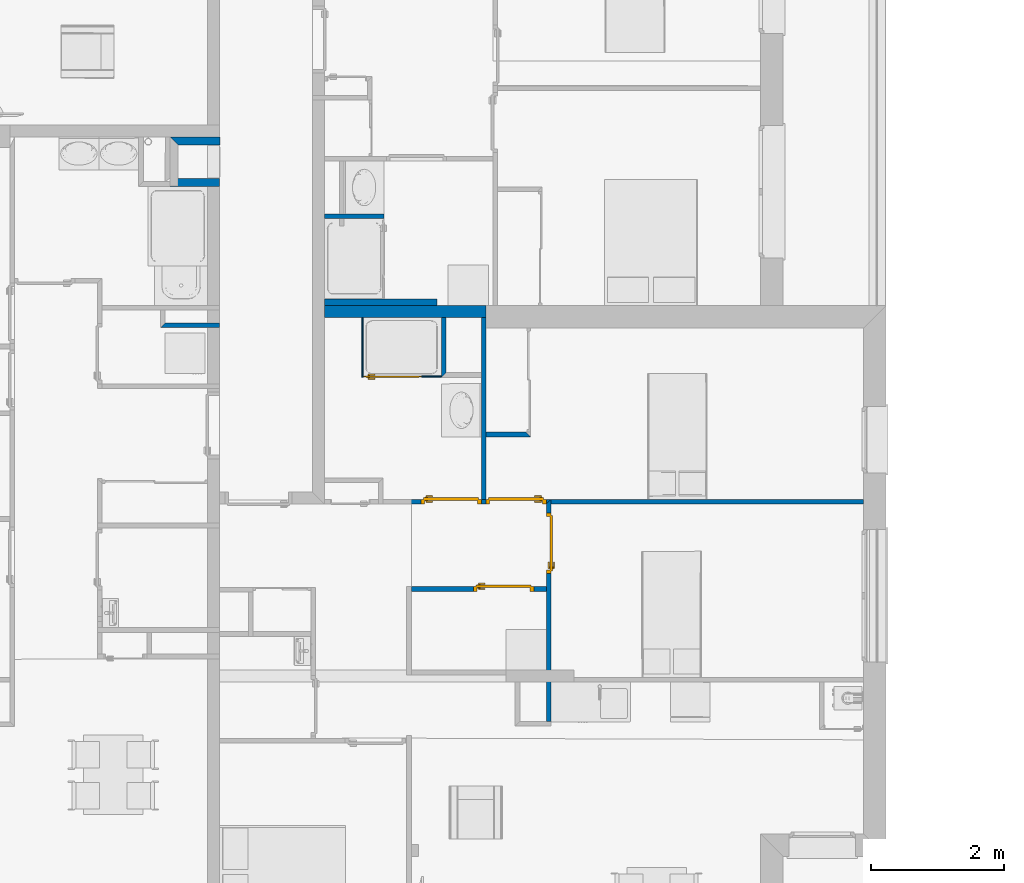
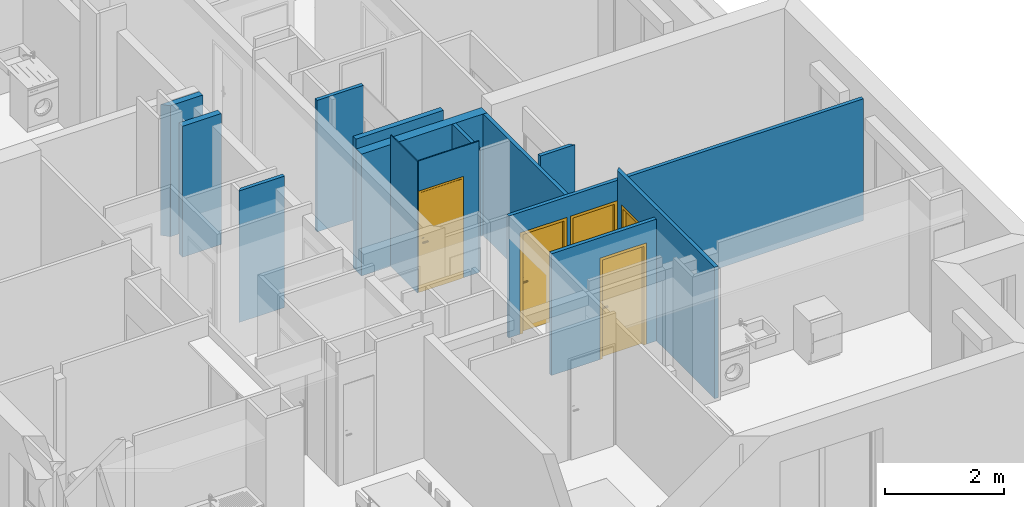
# One storey, part 12 of 164: 15 walls, 5 doors, 5 openings.
"""IFC2X3 building model written with IfcOpenShell, lengths in millimetres."""

from ifc_helpers import new_model, entity, si_unit, converted_unit, derived_unit, money_unit, direction, frame, origin_with_axes, origin_2d_with_axis, place, context, subcontext, project, spatial, polyline, rectangle, outline, extrude, faceted_brep, source, transform, mapped, material, layer, layer_set, layer_usage, type_object, element, fill, save


model = new_model("IFC2X3")

# Units and contexts
model_context = context("Model", 3, precision=0.01, world=origin_with_axes(), true_north=direction((0.0, 1.0)))
body_context = subcontext(model_context, "Body", "Model", "MODEL_VIEW")
ifc_project = project(units=[si_unit("LENGTHUNIT", "METRE", prefix="MILLI"), si_unit("AREAUNIT", "SQUARE_METRE"), si_unit("VOLUMEUNIT", "CUBIC_METRE"), converted_unit("PLANEANGLEUNIT", "DEGREE", entity("IfcPlaneAngleMeasure", 0.0174532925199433), si_unit("PLANEANGLEUNIT", "RADIAN"), dimensions=[0, 0, 0, 0, 0, 0, 0]), money_unit("USD"), converted_unit("TIMEUNIT", "Year", entity("IfcTimeMeasure", 31557600.0), si_unit("TIMEUNIT", "SECOND"), dimensions=[0, 0, 1, 0, 0, 0, 0]), si_unit("MASSUNIT", "GRAM", prefix="KILO"), si_unit("THERMODYNAMICTEMPERATUREUNIT", "DEGREE_CELSIUS"), si_unit("LUMINOUSINTENSITYUNIT", "LUMEN"), si_unit("ENERGYUNIT", "JOULE", prefix="MEGA"), derived_unit("THERMALCONDUCTANCEUNIT", [(si_unit("POWERUNIT", "WATT"), 1), (si_unit("LENGTHUNIT", "METRE"), -1), (si_unit("THERMODYNAMICTEMPERATUREUNIT", "KELVIN"), -1)]), derived_unit("SPECIFICHEATCAPACITYUNIT", [(si_unit("ENERGYUNIT", "JOULE"), 1), (si_unit("MASSUNIT", "GRAM", prefix="KILO"), -1), (si_unit("THERMODYNAMICTEMPERATUREUNIT", "KELVIN"), -1)]), derived_unit("MASSDENSITYUNIT", [(si_unit("MASSUNIT", "GRAM", prefix="KILO"), 1), (si_unit("VOLUMEUNIT", "CUBIC_METRE"), -1)])], contexts=[model_context])

# Site, building, storey
site_placement = place(None, origin_with_axes())
site = spatial("IfcSite", under=ifc_project, at=site_placement, Name="Site", CompositionType="ELEMENT")
building_placement = place(site_placement, origin_with_axes())
building = spatial("IfcBuilding", under=site, at=building_placement, Name="Bâtiment", CompositionType="ELEMENT")
storey_placement = place(building_placement, frame((0.0, 0.0, 5750.0), z_axis=(0.0, 0.0, 1.0), x_axis=(1.0, 0.0, 0.0)))
storey = spatial("IfcBuildingStorey", under=building, at=storey_placement, Name="Etage1", CompositionType="ELEMENT", Elevation=5750.0)

# Walls
ifc_material_1 = material(Name="Parpaing 314940890")
ifc_layer_1 = layer(ifc_material_1, 180.0, ventilated="UNKNOWN")
ifc_layer_set_1 = layer_set([ifc_layer_1], Name="Beton  18 0018356637")
ifc_layer_usage_1 = layer_usage(ifc_layer_set_1, "AXIS2", "NEGATIVE", 0.0)
wall_type_1 = type_object("IfcWallType", Name="Beton  18 0018356637 180", PredefinedType="NOTDEFINED")
wall_1_placement = place(storey_placement, frame((2225712.31835196, -646738.4413036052, 0.0), z_axis=(0.0, 0.0, 1.0), x_axis=(1.0, 0.0, 0.0)))
element("IfcWallStandardCase", 1, at=wall_1_placement, inside=storey, type_object=wall_type_1, material=ifc_layer_usage_1, Name="Mur-142", context=body_context, shape_type="SweptSolid", body=[
    extrude(outline(polyline([(180.0000047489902, -180.0000000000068), (2614.562191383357, -180.0000000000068), (2614.562191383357, 0.0), (180.0000047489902, 0.0), (180.0000047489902, -180.0000000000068)])), origin_with_axes(), (0.0, 0.0, 1.0), 2500.0),
])
ifc_material_2 = material(Name="Hachure solide 268963992")
ifc_layer_2 = layer(ifc_material_2, 70.0, ventilated="UNKNOWN")
ifc_layer_set_2 = layer_set([ifc_layer_2], Name="Cloison 70 0826278243")
ifc_layer_usage_2 = layer_usage(ifc_layer_set_2, "AXIS2", "NEGATIVE", 70.0)
wall_type_2 = type_object("IfcWallType", Name="Cloison 70 0826278243 70", PredefinedType="NOTDEFINED")
wall_2_placement = place(storey_placement, frame((2223422.792645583, -647071.8522366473, 0.0), z_axis=(0.0, 0.0, 1.0), x_axis=(0.9999999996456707, -2.662064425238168e-05, 0.0)))
element("IfcWallStandardCase", 2, at=wall_2_placement, inside=storey, type_object=wall_type_2, material=ifc_layer_usage_2, Name="Mur-149", context=body_context, shape_type="SweptSolid", body=[
    extrude(outline(polyline([(-1.13686837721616e-10, 0.0), (889.5840907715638, 0.0), (889.5840907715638, 70.00000000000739), (70.00055960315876, 69.99999999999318), (-1.13686837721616e-10, 0.0)])), origin_with_axes(), (0.0, 0.0, 1.0), 2700.0),
])
ifc_layer_usage_3 = layer_usage(ifc_layer_set_2, "AXIS2", "POSITIVE", -70.0)
wall_3_placement = place(storey_placement, frame((2226790.814608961, -645429.1779274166, 0.0), z_axis=(0.0, 0.0, 1.0), x_axis=(-1.0, 0.0, 0.0)))
element("IfcWallStandardCase", 3, at=wall_3_placement, inside=storey, type_object=wall_type_2, material=ifc_layer_usage_3, Name="Mur-149", context=body_context, shape_type="SweptSolid", body=[
    extrude(outline(polyline([(0.0, -69.99999999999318), (898.496252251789, -69.99999999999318), (898.496252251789, 0.0), (0.0, 0.0), (0.0, -69.99999999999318)])), origin_with_axes(), (0.0, 0.0, 1.0), 2700.0),
])
ifc_layer_usage_4 = layer_usage(ifc_layer_set_2, "AXIS2", "NEGATIVE", 70.0)
wall_4_placement = place(storey_placement, frame((2229236.880543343, -649729.592635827, 0.0), z_axis=(0.0, 0.0, 1.0), x_axis=(1.0, 0.0, 0.0)))
element("IfcWallStandardCase", 4, at=wall_4_placement, inside=storey, type_object=wall_type_2, material=ifc_layer_usage_4, Name="Mur-149", context=body_context, shape_type="SweptSolid", body=[
    extrude(outline(polyline([(70.00000018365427, 0.0), (4779.790753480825, 0.0), (4779.790753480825, 69.99999999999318), (69.99492977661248, 69.99999999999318), (70.00000018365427, 0.0)])), origin_with_axes(), (0.0, 0.0, 1.0), 2500.0),
])
ifc_layer_usage_5 = layer_usage(ifc_layer_set_2, "AXIS2", "POSITIVE", -70.0)
wall_5_placement = place(storey_placement, frame((2228326.880543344, -646738.4413036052, 0.0), z_axis=(0.0, 0.0, 1.0), x_axis=(0.0, -1.0, 0.0)))
element("IfcWallStandardCase", 5, at=wall_5_placement, inside=storey, type_object=wall_type_2, material=ifc_layer_usage_5, Name="Mur-149", context=body_context, shape_type="SweptSolid", body=[
    extrude(outline(polyline([(180.0000000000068, -70.00000000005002), (2921.151332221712, -70.00000000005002), (2921.151332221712, 0.0), (180.0000000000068, 0.0), (180.0000000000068, -70.00000000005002)])), origin_with_axes(), (0.0, 0.0, 1.0), 2500.0),
])
ifc_layer_usage_6 = layer_usage(ifc_layer_set_2, "AXIS2", "NEGATIVE", 70.0)
wall_6_placement = place(storey_placement, frame((2227655.056988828, -646738.4413036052, 0.0), z_axis=(0.0, 0.0, 1.0), x_axis=(0.0, -1.0, 0.0)))
element("IfcWallStandardCase", 6, at=wall_6_placement, inside=storey, type_object=wall_type_2, material=ifc_layer_usage_6, Name="Mur-149", context=body_context, shape_type="SweptSolid", body=[
    extrude(outline(polyline([(180.0000000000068, 0.0), (1080.872744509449, 0.0), (1010.872744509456, 70.00000000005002), (180.0000000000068, 70.00000000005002), (180.0000000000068, 0.0)])), origin_with_axes(), (0.0, 0.0, 1.0), 2500.000000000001),
])
ifc_layer_usage_7 = layer_usage(ifc_layer_set_2, "AXIS2", "NEGATIVE", 70.0)
wall_7_placement = place(storey_placement, frame((2228326.880543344, -648717.0412115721, 0.0), z_axis=(0.0, 0.0, 1.0), x_axis=(1.0, 0.0, 0.0)))
element("IfcWallStandardCase", 7, at=wall_7_placement, inside=storey, type_object=wall_type_2, material=ifc_layer_usage_7, Name="Mur-149", context=body_context, shape_type="SweptSolid", body=[
    extrude(outline(polyline([(0.0, 0.0), (669.9999999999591, 0.0), (599.999999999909, 69.99999999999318), (0.0, 69.99999999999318), (0.0, 0.0)])), origin_with_axes(), (0.0, 0.0, 1.0), 2700.0),
])

# Wall, opening, door
ifc_layer_usage_8 = layer_usage(ifc_layer_set_2, "AXIS2", "NEGATIVE", 70.0)
wall_8_placement = place(storey_placement, frame((2229236.880543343, -649729.592635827, 0.0), z_axis=(0.0, 0.0, 1.0), x_axis=(7.243438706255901e-05, -0.9999999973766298, 0.0)))
wall_8 = element("IfcWallStandardCase", 8, at=wall_8_placement, inside=storey, type_object=wall_type_2, material=ifc_layer_usage_8, Name="Mur-149", context=body_context, shape_type="SweptSolid", body=[
    extrude(outline(polyline([(0.0, 0.0), (3277.337972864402, 0.0), (3277.347924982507, 69.99999999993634), (-69.994929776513, 69.99999999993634), (0.0, 0.0)])), origin_with_axes(), (0.0, 0.0, 1.0), 2700.0),
])
opening_1_placement = place(wall_8_placement, frame((591.727868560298, -1.13686837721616e-10, 0.0), z_axis=(0.0, 0.0, 1.0), x_axis=(1.0, 0.0, 0.0)))
opening_1 = element("IfcOpeningElement", 9, at=opening_1_placement, cuts=wall_8, Name="Por-282", context=body_context, shape_type="SweptSolid", body=[
    extrude(rectangle(XDim=910.0, YDim=2080.0, at=origin_2d_with_axis()), frame((0.0, -69.99999999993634, 1040.0), z_axis=(0.0, -1.0, 0.0), x_axis=(-1.0, 0.0, 0.0)), (0.0, 0.0, -1.0), 140.0),
])
door_style = type_object("IfcDoorStyle", Name="Porte_1v", ConstructionType="NOTDEFINED", OperationType="NOTDEFINED", ParameterTakesPrecedence=False, Sizeable=False)
shared_shape_1 = source(origin_with_axes(), body_context, "Body", "Brep", [
    faceted_brep([(-454.9999999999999, 0.0, 0.0), (-454.9999999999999, 0.0, 2080.0), (454.9999999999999, 0.0, 2080.0), (454.9999999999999, 0.0, 0.0), (414.9999999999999, 0.0, 0.0), (414.9999999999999, 0.0, 2040.0), (-414.9999999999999, 0.0, 2040.0), (-414.9999999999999, 0.0, 0.0), (-454.9999999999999, -69.99999999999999, 0.0), (-454.9999999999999, -69.99999999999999, 2080.0), (454.9999999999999, -69.99999999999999, 2080.0), (454.9999999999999, -69.99999999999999, 0.0), (399.9999999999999, -69.99999999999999, 0.0), (399.9999999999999, -15.0, 0.0), (414.9999999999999, -15.0, 0.0), (414.9999999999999, -15.0, 2040.0), (-414.9999999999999, -14.99999999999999, 2040.0), (-414.9999999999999, -14.99999999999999, 0.0), (-399.9999999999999, -14.99999999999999, 0.0), (-399.9999999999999, -69.99999999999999, 0.0), (-399.9999999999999, -69.99999999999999, 2025.0), (399.9999999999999, -69.99999999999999, 2025.0), (399.9999999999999, -15.0, 2025.0), (-399.9999999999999, -14.99999999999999, 2025.0)], [[[0, 1, 2, 3, 4, 5, 6, 7]], [[8, 9, 1, 0]], [[9, 10, 2, 1]], [[10, 11, 3, 2]], [[3, 11, 12, 13, 14, 4]], [[5, 4, 14, 15]], [[6, 5, 15, 16]], [[7, 6, 16, 17]], [[0, 7, 17, 18, 19, 8]], [[19, 20, 21, 12, 11, 10, 9, 8]], [[22, 13, 12, 21]], [[17, 16, 15, 14, 13, 22, 23, 18]], [[18, 23, 20, 19]], [[23, 22, 21, 20]]]),
    faceted_brep([(350.0, -15.0, 900.0), (350.0, -15.0, 1100.0), (389.9999999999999, -15.0, 1100.0), (389.9999999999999, -15.0, 900.0), (350.0, -25.0, 900.0), (350.0, -25.0, 1100.0), (389.9999999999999, -25.0, 1100.0), (389.9999999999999, -25.0, 900.0)], [[[0, 1, 2, 3]], [[0, 4, 5, 1]], [[1, 5, 6, 2]], [[2, 6, 7, 3]], [[3, 7, 4, 0]], [[7, 6, 5, 4]]]),
    faceted_brep([(279.9999999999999, -25.0, 1000.0), (279.9999999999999, -25.0, 1020.0), (379.9999999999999, -25.0, 1020.0), (379.9999999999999, -25.0, 1000.0), (279.9999999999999, -45.0, 1000.0), (279.9999999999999, -45.0, 1020.0), (379.9999999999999, -45.0, 1020.0), (379.9999999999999, -45.0, 1000.0)], [[[0, 1, 2, 3]], [[0, 4, 5, 1]], [[1, 5, 6, 2]], [[2, 6, 7, 3]], [[3, 7, 4, 0]], [[7, 6, 5, 4]]]),
    faceted_brep([(350.0, 34.99999999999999, 900.0), (350.0, 34.99999999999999, 1100.0), (389.9999999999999, 34.99999999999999, 1100.0), (389.9999999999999, 34.99999999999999, 900.0), (350.0, 24.99999999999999, 900.0), (350.0, 24.99999999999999, 1100.0), (389.9999999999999, 24.99999999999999, 1100.0), (389.9999999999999, 24.99999999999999, 900.0)], [[[0, 1, 2, 3]], [[0, 4, 5, 1]], [[1, 5, 6, 2]], [[2, 6, 7, 3]], [[3, 7, 4, 0]], [[7, 6, 5, 4]]]),
    faceted_brep([(279.9999999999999, 54.99999999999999, 1000.0), (279.9999999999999, 54.99999999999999, 1020.0), (379.9999999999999, 54.99999999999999, 1020.0), (379.9999999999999, 54.99999999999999, 1000.0), (279.9999999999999, 34.99999999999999, 1000.0), (279.9999999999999, 34.99999999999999, 1020.0), (379.9999999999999, 34.99999999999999, 1020.0), (379.9999999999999, 34.99999999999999, 1000.0)], [[[0, 1, 2, 3]], [[0, 4, 5, 1]], [[1, 5, 6, 2]], [[2, 6, 7, 3]], [[3, 7, 4, 0]], [[7, 6, 5, 4]]]),
    faceted_brep([(414.9999999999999, 24.99999999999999, 0.0), (414.9999999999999, -15.0, 0.0), (-414.9999999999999, -14.99999999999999, 0.0), (-414.9999999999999, 25.0, 0.0), (414.9999999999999, 24.99999999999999, 2040.0), (414.9999999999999, -15.0, 2040.0), (-414.9999999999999, -14.99999999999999, 2040.0), (-414.9999999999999, 25.0, 2040.0)], [[[0, 1, 2, 3]], [[4, 5, 1, 0]], [[1, 5, 6, 2]], [[3, 2, 6, 7]], [[0, 3, 7, 4]], [[7, 6, 5, 4]]]),
])
door_1_placement = place(opening_1_placement, frame((-415.0000000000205, 0.0, 0.0), z_axis=(0.0, 0.0, 1.0), x_axis=(1.0, 0.0, 0.0)))
door_1 = element("IfcDoor", 10, at=door_1_placement, inside=storey, type_object=door_style, Name="Por-282", OverallHeight=2040.0, OverallWidth=830.0, context=body_context, shape_type="MappedRepresentation", body=[
    mapped(shared_shape_1, transform((415.0000000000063, 70.00000000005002, 0.0))),
])
fill(opening_1, door_1)

ifc_layer_usage_9 = layer_usage(ifc_layer_set_2, "AXIS2", "NEGATIVE", 70.0)
wall_9_placement = place(storey_placement, frame((2227132.330502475, -651044.9462380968, 0.0), z_axis=(0.0, 0.0, 1.0), x_axis=(1.0, 0.0, 0.0)))
wall_9 = element("IfcWallStandardCase", 11, at=wall_9_placement, inside=storey, type_object=wall_type_2, material=ifc_layer_usage_9, Name="Mur-149", context=body_context, shape_type="SweptSolid", body=[
    extrude(outline(polyline([(70.00000000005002, 0.0), (2104.550040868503, 0.0), (2104.550040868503, 69.99999999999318), (70.00000000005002, 69.99999999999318), (70.00000000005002, 0.0)])), origin_with_axes(), (0.0, 0.0, 1.0), 2500.0),
])
opening_2_placement = place(wall_9_placement, frame((1461.036546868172, 0.0, 0.0), z_axis=(0.0, 0.0, 1.0), x_axis=(1.0, 0.0, 0.0)))
opening_2 = element("IfcOpeningElement", 12, at=opening_2_placement, cuts=wall_9, Name="Por-283", context=body_context, shape_type="SweptSolid", body=[
    extrude(rectangle(XDim=910.0, YDim=2080.0, at=origin_2d_with_axis()), frame((0.0, -69.99999999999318, 1040.0), z_axis=(0.0, 1.0, 0.0), x_axis=(1.0, 0.0, 0.0)), (0.0, 0.0, 1.0), 140.0),
])
shared_shape_2 = source(origin_with_axes(), body_context, "Body", "Brep", [
    faceted_brep([(455.0, 0.0, 0.0), (415.0000000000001, 0.0, 0.0), (415.0000000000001, 0.0, 2040.0), (-415.0000000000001, 0.0, 2040.0), (-415.0000000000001, 0.0, 0.0), (-455.0, 0.0, 0.0), (-455.0, 0.0, 2080.0), (455.0, 0.0, 2080.0), (455.0, -70.0, 0.0), (400.0, -70.0, 0.0), (400.0, -15.0, 0.0), (415.0000000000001, -15.0, 0.0), (415.0000000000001, -15.0, 2040.0), (-415.0000000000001, -15.0, 2040.0), (-415.0000000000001, -15.0, 0.0), (-400.0, -15.0, 0.0), (-400.0, -70.0, 0.0), (-455.0, -70.0, 0.0), (-455.0, -70.0, 2080.0), (455.0, -70.0, 2080.0), (-400.0, -70.0, 2025.0), (400.0, -70.0, 2025.0), (400.0, -15.0, 2025.0), (-400.0, -15.0, 2025.0)], [[[0, 1, 2, 3, 4, 5, 6, 7]], [[0, 8, 9, 10, 11, 1]], [[1, 11, 12, 2]], [[2, 12, 13, 3]], [[3, 13, 14, 4]], [[5, 4, 14, 15, 16, 17]], [[18, 6, 5, 17]], [[19, 7, 6, 18]], [[8, 0, 7, 19]], [[9, 8, 19, 18, 17, 16, 20, 21]], [[10, 9, 21, 22]], [[11, 10, 22, 23, 15, 14, 13, 12]], [[23, 20, 16, 15]], [[22, 21, 20, 23]]]),
    faceted_brep([(-350.0000000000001, -15.0, 900.0), (-390.0, -15.0, 900.0), (-390.0, -15.0, 1100.0), (-350.0000000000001, -15.0, 1100.0), (-350.0000000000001, -25.0, 900.0), (-390.0, -25.0, 900.0), (-390.0, -25.0, 1100.0), (-350.0000000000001, -25.0, 1100.0)], [[[0, 1, 2, 3]], [[1, 0, 4, 5]], [[2, 1, 5, 6]], [[3, 2, 6, 7]], [[0, 3, 7, 4]], [[5, 4, 7, 6]]]),
    faceted_brep([(-280.0, -25.0, 1000.0), (-380.0, -25.0, 1000.0), (-380.0, -25.0, 1020.0), (-280.0, -25.0, 1020.0), (-280.0, -45.0, 1000.0), (-380.0, -45.0, 1000.0), (-380.0, -45.0, 1020.0), (-280.0, -45.0, 1020.0)], [[[0, 1, 2, 3]], [[1, 0, 4, 5]], [[2, 1, 5, 6]], [[3, 2, 6, 7]], [[0, 3, 7, 4]], [[5, 4, 7, 6]]]),
    faceted_brep([(-350.0000000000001, 35.0, 900.0), (-390.0, 35.0, 900.0), (-390.0, 35.0, 1100.0), (-350.0000000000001, 35.0, 1100.0), (-350.0000000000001, 25.0, 900.0), (-390.0, 25.0, 900.0), (-390.0, 25.0, 1100.0), (-350.0000000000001, 25.0, 1100.0)], [[[0, 1, 2, 3]], [[1, 0, 4, 5]], [[2, 1, 5, 6]], [[3, 2, 6, 7]], [[0, 3, 7, 4]], [[5, 4, 7, 6]]]),
    faceted_brep([(-280.0, 55.00000000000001, 1000.0), (-380.0, 55.00000000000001, 1000.0), (-380.0, 55.00000000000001, 1020.0), (-280.0, 55.00000000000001, 1020.0), (-280.0, 35.0, 1000.0), (-380.0, 35.0, 1000.0), (-380.0, 35.0, 1020.0), (-280.0, 35.0, 1020.0)], [[[0, 1, 2, 3]], [[1, 0, 4, 5]], [[2, 1, 5, 6]], [[3, 2, 6, 7]], [[0, 3, 7, 4]], [[5, 4, 7, 6]]]),
    faceted_brep([(-415.0000000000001, 25.0, 0.0), (415.0000000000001, 25.0, 0.0), (415.0000000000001, -15.0, 0.0), (-415.0000000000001, -15.0, 0.0), (-415.0000000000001, 25.0, 2040.0), (415.0000000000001, 25.0, 2040.0), (415.0000000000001, -15.0, 2040.0), (-415.0000000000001, -15.0, 2040.0)], [[[0, 1, 2, 3]], [[0, 4, 5, 1]], [[1, 5, 6, 2]], [[3, 2, 6, 7]], [[4, 0, 3, 7]], [[5, 4, 7, 6]]]),
])
door_2_placement = place(opening_2_placement, frame((-415.000000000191, 0.0, 0.0), z_axis=(0.0, 0.0, 1.0), x_axis=(1.0, 0.0, 0.0)))
door_2 = element("IfcDoor", 13, at=door_2_placement, inside=storey, type_object=door_style, Name="Por-283", OverallHeight=2040.0, OverallWidth=830.0, context=body_context, shape_type="MappedRepresentation", body=[
    mapped(shared_shape_2, transform((414.9999999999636, 69.99999999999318, 0.0))),
])
fill(opening_2, door_2)

# Wall, openings, doors
ifc_layer_usage_10 = layer_usage(ifc_layer_set_2, "AXIS2", "NEGATIVE", 70.0)
wall_10_placement = place(storey_placement, frame((2227132.330502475, -649729.592635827, 0.0), z_axis=(0.0, 0.0, 1.0), x_axis=(1.0, 0.0, 0.0)))
wall_10 = element("IfcWallStandardCase", 14, at=wall_10_placement, inside=storey, type_object=wall_type_2, material=ifc_layer_usage_10, Name="Mur-149", context=body_context, shape_type="SweptSolid", body=[
    extrude(outline(polyline([(0.0, 0.0), (2104.550040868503, 0.0), (2174.544970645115, 69.99999999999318), (0.0, 69.99999999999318), (0.0, 0.0)])), origin_with_axes(), (0.0, 0.0, 1.0), 2500.0),
])
opening_3_placement = place(wall_10_placement, frame((1649.550040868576, 0.0, 0.0), z_axis=(0.0, 0.0, 1.0), x_axis=(1.0, 0.0, 0.0)))
opening_3 = element("IfcOpeningElement", 15, at=opening_3_placement, cuts=wall_10, Name="Por-281", context=body_context, shape_type="SweptSolid", body=[
    extrude(rectangle(XDim=910.0, YDim=2080.0, at=origin_2d_with_axis()), frame((0.0, -69.99999999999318, 1040.0), z_axis=(0.0, -1.0, 0.0), x_axis=(-1.0, 0.0, 0.0)), (0.0, 0.0, -1.0), 140.0),
])
opening_4_placement = place(wall_10_placement, frame((669.5500408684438, 0.0, 0.0), z_axis=(0.0, 0.0, 1.0), x_axis=(1.0, 0.0, 0.0)))
opening_4 = element("IfcOpeningElement", 16, at=opening_4_placement, cuts=wall_10, Name="Por-282", context=body_context, shape_type="SweptSolid", body=[
    extrude(rectangle(XDim=910.0, YDim=2080.0, at=origin_2d_with_axis()), frame((0.0, -69.99999999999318, 1040.0), z_axis=(0.0, 1.0, 0.0), x_axis=(1.0, 0.0, 0.0)), (0.0, 0.0, 1.0), 140.0),
])
door_3_placement = place(opening_4_placement, frame((-414.9999999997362, 0.0, 0.0), z_axis=(0.0, 0.0, 1.0), x_axis=(1.0, 0.0, 0.0)))
door_3 = element("IfcDoor", 17, at=door_3_placement, inside=storey, type_object=door_style, Name="Por-282", OverallHeight=2040.0, OverallWidth=830.0, context=body_context, shape_type="MappedRepresentation", body=[
    mapped(shared_shape_2, transform((414.9999999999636, 69.99999999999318, 0.0))),
])
fill(opening_4, door_3)
door_4_placement = place(opening_3_placement, frame((-415.0000000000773, 0.0, 0.0), z_axis=(0.0, 0.0, 1.0), x_axis=(1.0, 0.0, 0.0)))
door_4 = element("IfcDoor", 18, at=door_4_placement, inside=storey, type_object=door_style, Name="Por-281", OverallHeight=2040.0, OverallWidth=830.0, context=body_context, shape_type="MappedRepresentation", body=[
    mapped(shared_shape_1, transform((414.9999999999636, 69.99999999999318, 0.0))),
])
fill(opening_3, door_4)

# Walls
ifc_material_3 = material(Name="AS_EMPTY 272048125")
ifc_layer_3 = layer(ifc_material_3, 20.0, ventilated="UNKNOWN")
ifc_material_4 = material(Name="Isolant styromousse 275581351")
ifc_layer_4 = layer(ifc_material_4, 80.0, ventilated="UNKNOWN")
ifc_layer_5 = layer(ifc_material_3, 20.0, ventilated="UNKNOWN")
ifc_layer_set_3 = layer_set([ifc_layer_3, ifc_layer_4, ifc_layer_5], Name="SAA 120")
ifc_layer_usage_11 = layer_usage(ifc_layer_set_3, "AXIS2", "NEGATIVE", 0.0)
wall_type_3 = type_object("IfcWallType", Name="SAA 120 120", PredefinedType="NOTDEFINED")
wall_11_placement = place(storey_placement, frame((2223563.825471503, -644196.3774207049, 0.0), z_axis=(0.0, 0.0, 1.0), x_axis=(1.0, 0.0, 0.0)))
element("IfcWallStandardCase", 19, at=wall_11_placement, inside=storey, type_object=wall_type_3, material=ifc_layer_usage_11, Name="Mur-156", context=body_context, shape_type="SweptSolid", body=[
    extrude(outline(polyline([(119.9266037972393, -120.0000000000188), (751.3838163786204, -120.0000000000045), (751.3838163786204, 0.0), (0.0, 0.0), (119.9266037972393, -120.0000000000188)])), origin_with_axes(), (0.0, 0.0, 1.0), 2690.0),
])
ifc_layer_usage_12 = layer_usage(ifc_layer_set_3, "AXIS2", "POSITIVE", 0.0)
wall_12_placement = place(storey_placement, frame((2223562.193888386, -644940.5007987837, 0.0), z_axis=(0.0, 0.0, 1.0), x_axis=(1.0, 0.0, 0.0)))
element("IfcWallStandardCase", 20, at=wall_12_placement, inside=storey, type_object=wall_type_3, material=ifc_layer_usage_12, Name="Mur-156", context=body_context, shape_type="SweptSolid", body=[
    extrude(outline(polyline([(1.13686837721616e-10, 0.0), (751.3838163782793, 0.0), (751.3838163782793, 120.0000000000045), (2.273736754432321e-10, 120.0000000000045), (1.13686837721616e-10, 0.0)])), origin_with_axes(), (0.0, 0.0, 1.0), 2690.0),
])

# Wall, opening, door
ifc_material_5 = material(Name="Empty Fill 292498448")
ifc_layer_6 = layer(ifc_material_5, 20.0, ventilated="UNKNOWN")
ifc_layer_set_4 = layer_set([ifc_layer_6], Name="mur 2cm")
ifc_layer_usage_13 = layer_usage(ifc_layer_set_4, "AXIS2", "NEGATIVE", 20.0)
wall_type_4 = type_object("IfcWallType", Name="mur 2cm 20", PredefinedType="NOTDEFINED")
wall_13_placement = place(storey_placement, frame((2226476.67166627, -647817.9289635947, 0.0), z_axis=(0.0, 0.0, 1.0), x_axis=(0.999999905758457, -0.0004341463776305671, 0.0)))
wall_13 = element("IfcWallStandardCase", 21, at=wall_13_placement, inside=storey, type_object=wall_type_4, material=ifc_layer_usage_13, Name="Mur-148", context=body_context, shape_type="SweptSolid", body=[
    extrude(outline(polyline([(0.0, 0.0), (1180.11044172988, 0.0), (1180.11044172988, 19.99999999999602), (-1.13686837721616e-10, 19.99999999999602), (0.0, 0.0)])), origin_with_axes(), (0.0, 0.0, 1.0), 2700.0),
])
opening_5_placement = place(wall_13_placement, frame((439.9999999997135, 0.0, 0.0), z_axis=(0.0, 0.0, 1.0), x_axis=(1.0, 0.0, 0.0)))
opening_5 = element("IfcOpeningElement", 22, at=opening_5_placement, cuts=wall_13, Name="Por-288", context=body_context, shape_type="SweptSolid", body=[
    extrude(rectangle(XDim=880.0000119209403, YDim=2080.0, at=origin_2d_with_axis()), frame((5.960487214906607e-06, 20.00000000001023, 1040.0), z_axis=(0.0, 1.0, 0.0), x_axis=(1.0, 0.0, 0.0)), (0.0, 0.0, -1.0), 40.0),
])
shared_shape_3 = source(origin_with_axes(), body_context, "Body", "Brep", [
    faceted_brep([(-440.0, 0.0, 0.0), (-440.0, 0.0, 2080.0), (440.0, 0.0, 2080.0), (440.0, 0.0, 0.0), (400.0, 0.0, 0.0), (400.0, 0.0, 2040.0), (-400.0, 0.0, 2040.0), (-400.0, 0.0, 0.0), (-440.0, -20.0, 0.0), (-440.0, -20.0, 2080.0), (440.0, -20.0, 2080.0), (440.0, -20.0, 0.0), (385.0, -20.0, 0.0), (385.0, -15.0, 0.0), (400.0, -15.0, 0.0), (400.0, -15.0, 2040.0), (-400.0, -15.0, 2040.0), (-400.0, -15.0, 0.0), (-385.0, -15.0, 0.0), (-385.0, -20.0, 0.0), (-385.0, -20.0, 2025.0), (385.0, -20.0, 2025.0), (385.0, -15.0, 2025.0), (-385.0, -15.0, 2025.0)], [[[0, 1, 2, 3, 4, 5, 6, 7]], [[8, 9, 1, 0]], [[9, 10, 2, 1]], [[10, 11, 3, 2]], [[3, 11, 12, 13, 14, 4]], [[5, 4, 14, 15]], [[6, 5, 15, 16]], [[7, 6, 16, 17]], [[0, 7, 17, 18, 19, 8]], [[19, 20, 21, 12, 11, 10, 9, 8]], [[22, 13, 12, 21]], [[17, 16, 15, 14, 13, 22, 23, 18]], [[18, 23, 20, 19]], [[23, 22, 21, 20]]]),
    faceted_brep([(335.0, -15.0, 900.0), (335.0, -15.0, 1100.0), (375.0, -15.0, 1100.0), (375.0, -15.0, 900.0), (335.0, -25.0, 900.0), (335.0, -25.0, 1100.0), (375.0, -25.0, 1100.0), (375.0, -25.0, 900.0)], [[[0, 1, 2, 3]], [[0, 4, 5, 1]], [[1, 5, 6, 2]], [[2, 6, 7, 3]], [[3, 7, 4, 0]], [[7, 6, 5, 4]]]),
    faceted_brep([(265.0, -25.0, 1000.0), (265.0, -25.0, 1020.0), (365.0, -25.0, 1020.0), (365.0, -25.0, 1000.0), (265.0, -45.0, 1000.0), (265.0, -45.0, 1020.0), (365.0, -45.0, 1020.0), (365.0, -45.0, 1000.0)], [[[0, 1, 2, 3]], [[0, 4, 5, 1]], [[1, 5, 6, 2]], [[2, 6, 7, 3]], [[3, 7, 4, 0]], [[7, 6, 5, 4]]]),
    faceted_brep([(335.0, 15.0, 900.0), (335.0, 15.0, 1100.0), (375.0, 15.0, 1100.0), (375.0, 15.0, 900.0), (335.0, 5.000000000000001, 900.0), (335.0, 5.000000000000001, 1100.0), (375.0, 5.000000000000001, 1100.0), (375.0, 5.000000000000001, 900.0)], [[[0, 1, 2, 3]], [[0, 4, 5, 1]], [[1, 5, 6, 2]], [[2, 6, 7, 3]], [[3, 7, 4, 0]], [[7, 6, 5, 4]]]),
    faceted_brep([(265.0, 35.0, 1000.0), (265.0, 35.0, 1020.0), (365.0, 35.0, 1020.0), (365.0, 35.0, 1000.0), (265.0, 15.0, 1000.0), (265.0, 15.0, 1020.0), (365.0, 15.0, 1020.0), (365.0, 15.0, 1000.0)], [[[0, 1, 2, 3]], [[0, 4, 5, 1]], [[1, 5, 6, 2]], [[2, 6, 7, 3]], [[3, 7, 4, 0]], [[7, 6, 5, 4]]]),
    faceted_brep([(400.0, 5.000000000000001, 0.0), (400.0, -15.0, 0.0), (-400.0, -15.0, 0.0), (-400.0, 5.000000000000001, 0.0), (400.0, 5.000000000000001, 2040.0), (400.0, -15.0, 2040.0), (-400.0, -15.0, 2040.0), (-400.0, 5.000000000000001, 2040.0)], [[[0, 1, 2, 3]], [[4, 5, 1, 0]], [[1, 5, 6, 2]], [[3, 2, 6, 7]], [[0, 3, 7, 4]], [[7, 6, 5, 4]]]),
])
door_5_placement = place(opening_5_placement, frame((399.9999999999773, 0.0, 0.0), z_axis=(0.0, 0.0, 1.0), x_axis=(-1.0, 0.0, 0.0)))
door_5 = element("IfcDoor", 23, at=door_5_placement, inside=storey, type_object=door_style, Name="Por-288", OverallHeight=2040.0, OverallWidth=800.0, context=body_context, shape_type="MappedRepresentation", body=[
    mapped(shared_shape_3, transform((399.9999999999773, 0.0, 0.0))),
])
fill(opening_5, door_5)

# Walls
ifc_layer_usage_14 = layer_usage(ifc_layer_set_4, "AXIS2", "NEGATIVE", 20.0)
wall_14_placement = place(storey_placement, frame((2226456.781996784, -646738.4413036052, 0.0), z_axis=(0.0, 0.0, 1.0), x_axis=(0.0, -1.0, 0.0)))
element("IfcWallStandardCase", 24, at=wall_14_placement, inside=storey, type_object=wall_type_4, material=ifc_layer_usage_14, Name="Mur-148", context=body_context, shape_type="SweptSolid", body=[
    extrude(outline(polyline([(180.0000000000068, 0.0), (1080.00000066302, 0.0), (1080.00000066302, 19.99999999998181), (180.0000000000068, 19.99999999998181), (180.0000000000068, 0.0)])), origin_with_axes(), (0.0, 0.0, 1.0), 2700.0),
])
ifc_layer_7 = layer(ifc_material_2, 100.0, ventilated="UNKNOWN")
ifc_layer_set_5 = layer_set([ifc_layer_7], Name="Cloison 100")
ifc_layer_usage_15 = layer_usage(ifc_layer_set_5, "AXIS2", "POSITIVE", -100.0)
wall_type_5 = type_object("IfcWallType", Name="Cloison 100 100", PredefinedType="NOTDEFINED")
wall_15_placement = place(storey_placement, frame((2227590.814467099, -646738.9464995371, 0.0), z_axis=(0.0, 0.0, 1.0), x_axis=(-1.0, 0.0, 0.0)))
element("IfcWallStandardCase", 25, at=wall_15_placement, inside=storey, type_object=wall_type_5, material=ifc_layer_usage_15, Name="Mur-149", context=body_context, shape_type="SweptSolid", body=[
    extrude(outline(polyline([(0.0, -99.99999999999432), (1698.49611039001, -99.99999999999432), (1698.49611039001, 0.0), (0.0, 0.0), (0.0, -99.99999999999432)])), origin_with_axes(), (0.0, 0.0, 1.0), 2700.0),
])

save(model, "model.ifc")
